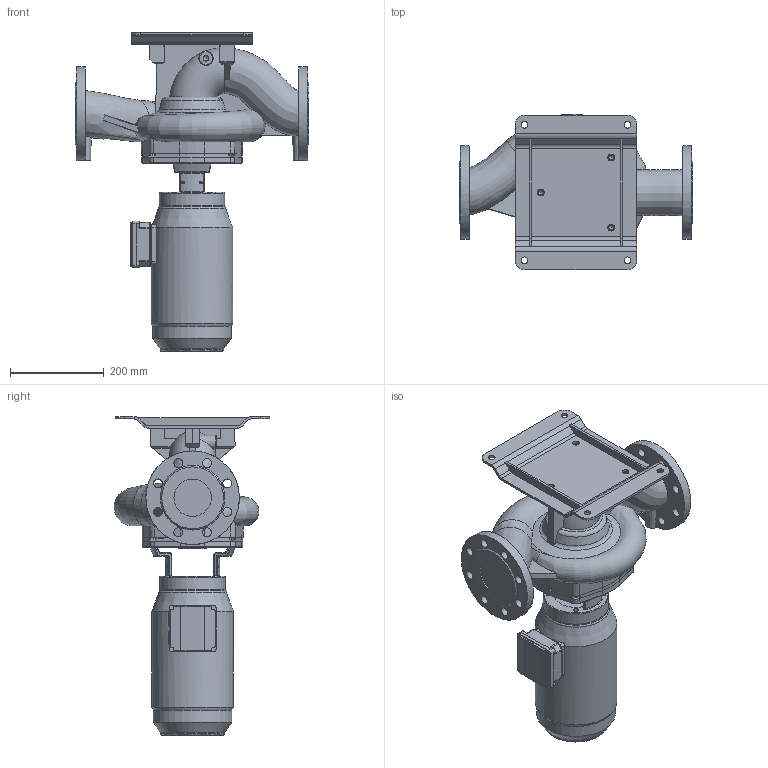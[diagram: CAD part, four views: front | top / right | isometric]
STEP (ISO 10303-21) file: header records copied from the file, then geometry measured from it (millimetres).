
FILE_DESCRIPTION (( 'STEP AP203' ), '1' );
FILE_NAME ('KI80-180_4_1,5kW.STEP', '2024-07-25T06:57:38', ( '' ), ( '' ), 'SwSTEP 2.0', 'SolidWorks 2023', '' );
FILE_SCHEMA (( 'CONFIG_CONTROL_DESIGN' ));
Length unit declared in the file: millimetre
Products named in the file (11): 230489; 220543; KI80-180_4_1,5kW; 230416; HMA3_90L-4_solid; 230034; 230031; 230033; 220542; 230488; 230417
Assembly tree (11 placements, depth 3):
  KI80-180_4_1,5kW
    HMA3_90L-4_solid
    230417
      230416
    230489
      230488
    220543
      220542
    230034
      230031
      230033  x2
Bounding box: 500 x 332.83 x 681.45 mm (x, y, z)
Volume: 19974347 mm3; surface area: 1175315.6 mm2
Topology: 7 solids, 7 shells, 806 faces, 2077 edges, 1280 vertices
Faces by surface type: plane 275, cylinder 273, bspline 105, torus 71, cone 68, sphere 14
Full cylindrical faces by diameter (mm): 5 x8, 6 x3, 6.8 x4, 7 x8, 10 x4, 10.2 x7, 11.8 x4, 14 x4, 14.5 x7, 19 x16, 80 x2, 95 x1, 136 x1, 140 x2, 150 x1, 168.6 x1, 174.6 x1, 189 x1, 194 x1, 200 x2
Entity records: 67321 total; most frequent: CARTESIAN_POINT 48186, ORIENTED_EDGE 3730, DIRECTION 3603, EDGE_CURVE 1865, AXIS2_PLACEMENT_3D 1414, VERTEX_POINT 1213, EDGE_LOOP 1018, FACE_OUTER_BOUND 881
